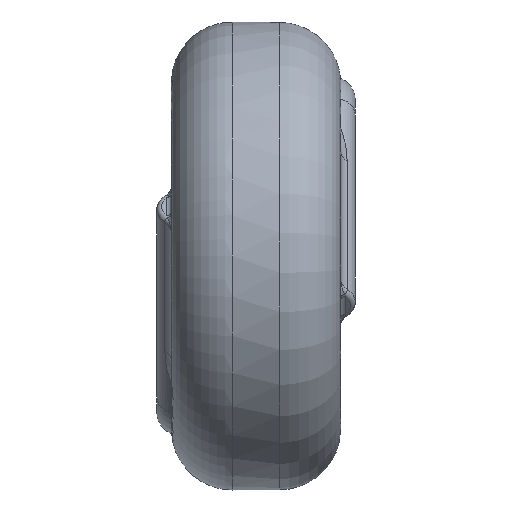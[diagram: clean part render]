
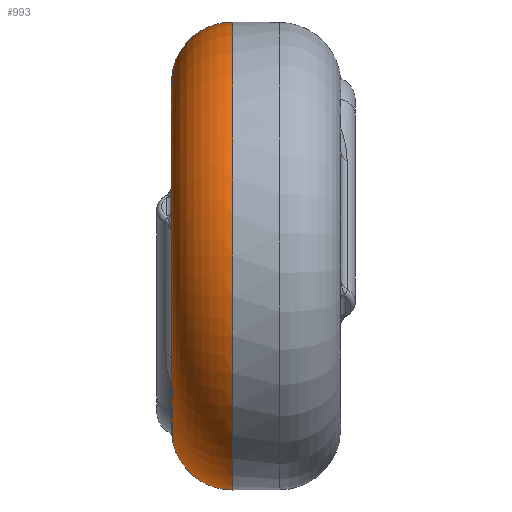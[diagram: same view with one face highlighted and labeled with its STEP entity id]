
A CAD part, left-side view. The second image highlights one B-rep face of the part: STEP entity #993.
In plain terms, the highlighted toroidal (fillet/blend) face has major radius 7.05 mm and minor radius 2.5 mm.
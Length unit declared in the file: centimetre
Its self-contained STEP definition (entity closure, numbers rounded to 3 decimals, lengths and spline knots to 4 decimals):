
#746=CARTESIAN_POINT('',(0.5594,0.61,-0.4291));
#747=VERTEX_POINT('',#746);
#869=CARTESIAN_POINT('',(0.6833,0.61,-0.1736));
#870=VERTEX_POINT('',#869);
#878=CARTESIAN_POINT('',(0.6833,0.61,-0.1736));
#879=CARTESIAN_POINT('',(0.698,0.61,-0.1927));
#880=CARTESIAN_POINT('',(0.731,0.6055,-0.226));
#881=CARTESIAN_POINT('',(0.7935,0.578,-0.2652));
#882=CARTESIAN_POINT('',(0.8378,0.5349,-0.2938));
#883=CARTESIAN_POINT('',(0.8625,0.4836,-0.3318));
#884=CARTESIAN_POINT('',(0.8686,0.4392,-0.371));
#885=CARTESIAN_POINT('',(0.8506,0.396,-0.432));
#886=CARTESIAN_POINT('',(0.813,0.3767,-0.5021));
#887=CARTESIAN_POINT('',(0.7663,0.3879,-0.5696));
#888=CARTESIAN_POINT('',(0.7194,0.4301,-0.6167));
#889=CARTESIAN_POINT('',(0.6804,0.4894,-0.6231));
#890=CARTESIAN_POINT('',(0.6514,0.5422,-0.5922));
#891=CARTESIAN_POINT('',(0.6266,0.5805,-0.5419));
#892=CARTESIAN_POINT('',(0.5994,0.6042,-0.4831));
#893=CARTESIAN_POINT('',(0.5744,0.61,-0.4455));
#894=CARTESIAN_POINT('',(0.5594,0.61,-0.4291));
#895=B_SPLINE_CURVE_WITH_KNOTS('',3,(#878,#879,#880,#881,#882,#883,#884,#885,#886,#887,#888,#889,#890,#891,#892,#893,#894),.UNSPECIFIED.,.F.,.U.,(4,1,1,1,1,1,1,1,1,1,1,1,1,1,4),(-1.2277,-1.14,-1.0523,-0.9208,-0.8769,-0.7893,-0.7016,-0.6139,-0.5262,-0.4385,-0.3508,-0.2631,-0.1754,-0.0877,0.0),.UNSPECIFIED.);
#896=EDGE_CURVE('',#870,#747,#895,.T.);
#967=CARTESIAN_POINT('',(0.0,0.36,0.0));
#968=DIRECTION('',(0.0,1.0,0.0));
#969=DIRECTION('',(1.0,0.0,0.0));
#970=AXIS2_PLACEMENT_3D('',#967,#968,#969);
#971=TOROIDAL_SURFACE('',#970,0.705,0.25);
#972=CARTESIAN_POINT('',(0.955,0.36,0.));
#973=VERTEX_POINT('',#972);
#974=CARTESIAN_POINT('',(0.0,0.36,0.0));
#975=DIRECTION('',(0.0,1.0,0.0));
#976=DIRECTION('',(-1.0,0.0,0.0));
#977=AXIS2_PLACEMENT_3D('',#974,#975,#976);
#978=CIRCLE('',#977,0.955);
#979=EDGE_CURVE('',#973,#973,#978,.T.);
#980=ORIENTED_EDGE('',*,*,#979,.T.);
#981=EDGE_LOOP('',(#980));
#982=FACE_OUTER_BOUND('',#981,.T.);
#983=ORIENTED_EDGE('',*,*,#896,.F.);
#984=CARTESIAN_POINT('',(0.0,0.61,0.0));
#985=DIRECTION('',(0.0,-1.0,0.0));
#986=DIRECTION('',(-1.0,0.0,0.0));
#987=AXIS2_PLACEMENT_3D('',#984,#985,#986);
#988=CIRCLE('',#987,0.705);
#989=EDGE_CURVE('',#870,#747,#988,.T.);
#990=ORIENTED_EDGE('',*,*,#989,.T.);
#991=EDGE_LOOP('',(#983,#990));
#992=FACE_BOUND('',#991,.T.);
#993=ADVANCED_FACE('',(#982,#992),#971,.T.);
